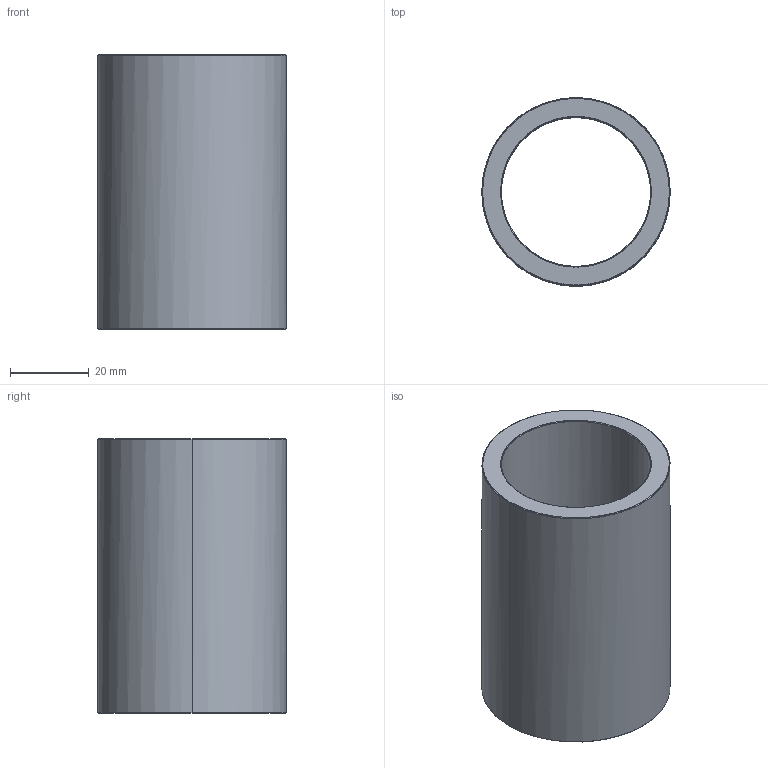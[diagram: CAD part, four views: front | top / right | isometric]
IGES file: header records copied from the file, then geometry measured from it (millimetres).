
Start section: Write IGES format                                    datakit 2008 (c)
Global section: file name: Unknown; native system: DATAKIT Converter; preprocessor: Unknown; author: Unknown; organization: Unknown; date: 950613.180003; units: millimetre
Bounding box: 48 x 47.98 x 70 mm (x, y, z)
Surface area: 20200 mm2 (no closed solid volume)
Topology: 0 solids, 0 shells, 14 faces, 56 edges, 56 vertices
Faces by surface type: revolution 12, bspline 2
